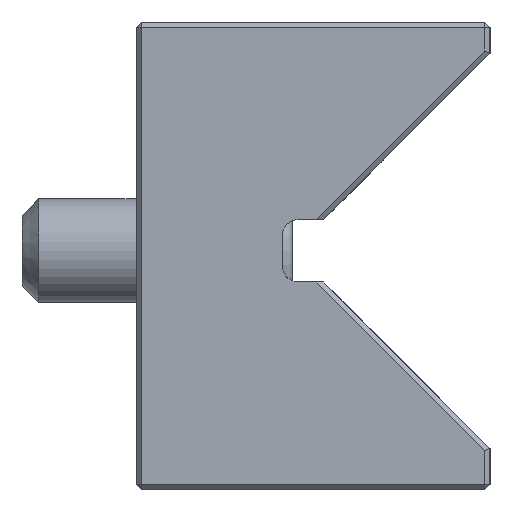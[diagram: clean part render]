
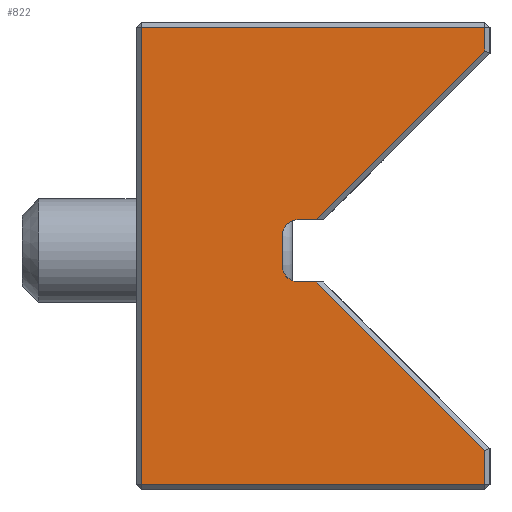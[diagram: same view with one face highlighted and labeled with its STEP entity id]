
A CAD part, left-side view. The second image highlights one B-rep face of the part: STEP entity #822.
In plain terms, the highlighted planar face has unit normal (-1, 0, 0).
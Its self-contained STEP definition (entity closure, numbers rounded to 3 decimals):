
#822=ADVANCED_FACE('',(#1728),#1730,.F.);
#1728=FACE_BOUND('',#1729,.T.);
#1729=EDGE_LOOP('',(#2360,#2361,#2362,#2363,#2364,#2365,#2366,#2367,#2368,#2369,
#2370,#2371));
#1730=PLANE('',#1731);
#1731=AXIS2_PLACEMENT_3D('',#1732,#1733,#1734);
#1732=CARTESIAN_POINT('',(-50.,0.,0.));
#1733=DIRECTION('',(1.,0.,0.));
#1734=DIRECTION('',(0.,1.,0.));
#2360=ORIENTED_EDGE('',*,*,#2697,.T.);
#2361=ORIENTED_EDGE('',*,*,#2656,.T.);
#2362=ORIENTED_EDGE('',*,*,#2652,.T.);
#2363=ORIENTED_EDGE('',*,*,#2676,.T.);
#2364=ORIENTED_EDGE('',*,*,#2674,.T.);
#2365=ORIENTED_EDGE('',*,*,#2672,.T.);
#2366=ORIENTED_EDGE('',*,*,#2698,.T.);
#2367=ORIENTED_EDGE('',*,*,#2699,.F.);
#2368=ORIENTED_EDGE('',*,*,#2688,.F.);
#2369=ORIENTED_EDGE('',*,*,#2637,.F.);
#2370=ORIENTED_EDGE('',*,*,#2685,.F.);
#2371=ORIENTED_EDGE('',*,*,#2700,.F.);
#2637=EDGE_CURVE('',#3016,#3014,#3018,.T.);
#2652=EDGE_CURVE('',#3035,#3033,#3036,.T.);
#2656=EDGE_CURVE('',#3039,#3035,#3042,.T.);
#2672=EDGE_CURVE('',#3069,#3067,#3070,.T.);
#2674=EDGE_CURVE('',#3072,#3069,#3073,.T.);
#2676=EDGE_CURVE('',#3033,#3072,#3075,.T.);
#2685=EDGE_CURVE('',#3087,#3016,#3089,.T.);
#2688=EDGE_CURVE('',#3014,#3092,#3093,.T.);
#2697=EDGE_CURVE('',#3106,#3039,#3107,.T.);
#2698=EDGE_CURVE('',#3067,#3108,#3109,.T.);
#2699=EDGE_CURVE('',#3092,#3108,#3110,.T.);
#2700=EDGE_CURVE('',#3106,#3087,#3111,.T.);
#3014=VERTEX_POINT('',#4179);
#3016=VERTEX_POINT('',#4183);
#3018=LINE('',#4187,#4188);
#3033=VERTEX_POINT('',#4231);
#3035=VERTEX_POINT('',#4235);
#3036=CIRCLE('',#4236,1.6);
#3039=VERTEX_POINT('',#4244);
#3042=LINE('',#4251,#4252);
#3067=VERTEX_POINT('',#4307);
#3069=VERTEX_POINT('',#4311);
#3070=LINE('',#4312,#4313);
#3072=VERTEX_POINT('',#4318);
#3073=CIRCLE('',#4319,1.6);
#3075=LINE('',#4326,#4327);
#3087=VERTEX_POINT('',#4354);
#3089=LINE('',#4358,#4359);
#3092=VERTEX_POINT('',#4367);
#3093=LINE('',#4368,#4369);
#3106=VERTEX_POINT('',#4399);
#3107=LINE('',#4400,#4401);
#3108=VERTEX_POINT('',#4403);
#3109=LINE('',#4404,#4405);
#3110=LINE('',#4407,#4408);
#3111=LINE('',#4410,#4411);
#4179=CARTESIAN_POINT('',(-50.,16.5,21.5));
#4183=CARTESIAN_POINT('',(-50.,16.5,-22.5));
#4187=CARTESIAN_POINT('',(-50.,16.5,-22.5));
#4188=VECTOR('',#4189,1.);
#4189=DIRECTION('',(0.,0.,1.));
#4231=CARTESIAN_POINT('',(-50.,3.,-1.4));
#4235=CARTESIAN_POINT('',(-50.,1.4,-3.));
#4236=AXIS2_PLACEMENT_3D('',#4237,#4238,#4239);
#4237=CARTESIAN_POINT('',(-50.,1.4,-1.4));
#4238=DIRECTION('',(1.,0.,0.));
#4239=DIRECTION('',(0.,0.,-1.));
#4244=CARTESIAN_POINT('',(-50.,-0.293,-3.));
#4251=CARTESIAN_POINT('',(-50.,-0.293,-3.));
#4252=VECTOR('',#4253,1.);
#4253=DIRECTION('',(0.,1.,0.));
#4307=CARTESIAN_POINT('',(-50.,-0.293,3.));
#4311=CARTESIAN_POINT('',(-50.,1.4,3.));
#4312=CARTESIAN_POINT('',(-50.,1.4,3.));
#4313=VECTOR('',#4314,1.);
#4314=DIRECTION('',(0.,-1.,0.));
#4318=CARTESIAN_POINT('',(-50.,3.,1.4));
#4319=AXIS2_PLACEMENT_3D('',#4320,#4321,#4322);
#4320=CARTESIAN_POINT('',(-50.,1.4,1.4));
#4321=DIRECTION('',(1.,0.,0.));
#4322=DIRECTION('',(0.,1.,0.));
#4326=CARTESIAN_POINT('',(-50.,3.,-1.4));
#4327=VECTOR('',#4328,1.);
#4328=DIRECTION('',(0.,0.,1.));
#4354=CARTESIAN_POINT('',(-50.,-16.5,-22.5));
#4358=CARTESIAN_POINT('',(-50.,-16.5,-22.5));
#4359=VECTOR('',#4360,1.);
#4360=DIRECTION('',(0.,1.,0.));
#4367=CARTESIAN_POINT('',(-50.,-16.5,21.5));
#4368=CARTESIAN_POINT('',(-50.,16.5,21.5));
#4369=VECTOR('',#4370,1.);
#4370=DIRECTION('',(0.,-1.,0.));
#4399=CARTESIAN_POINT('',(-50.,-16.5,-19.207));
#4400=CARTESIAN_POINT('',(-50.,-16.5,-19.207));
#4401=VECTOR('',#4402,1.);
#4402=DIRECTION('',(0.,0.707,0.707));
#4403=CARTESIAN_POINT('',(-50.,-16.5,19.207));
#4404=CARTESIAN_POINT('',(-50.,-0.293,3.));
#4405=VECTOR('',#4406,1.);
#4406=DIRECTION('',(0.,-0.707,0.707));
#4407=CARTESIAN_POINT('',(-50.,-16.5,21.5));
#4408=VECTOR('',#4409,1.);
#4409=DIRECTION('',(0.,0.,-1.));
#4410=CARTESIAN_POINT('',(-50.,-16.5,-19.207));
#4411=VECTOR('',#4412,1.);
#4412=DIRECTION('',(0.,0.,-1.));
